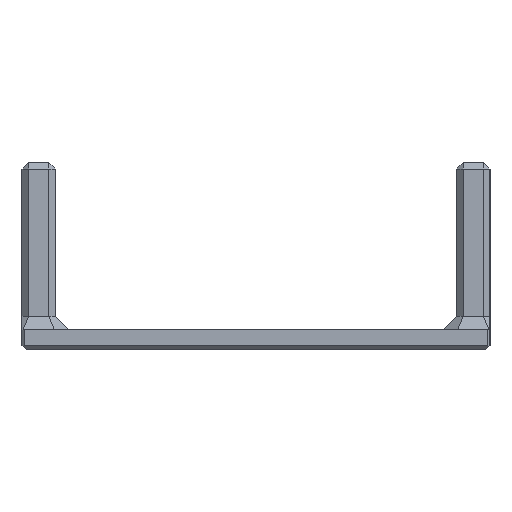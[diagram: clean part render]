
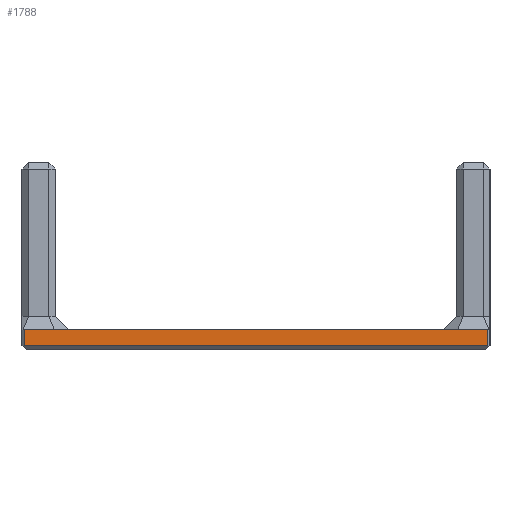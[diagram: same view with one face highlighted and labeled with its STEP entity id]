
A CAD part, left-side view. The second image highlights one B-rep face of the part: STEP entity #1788.
In plain terms, the highlighted planar face has unit normal (-1, 0, 0).
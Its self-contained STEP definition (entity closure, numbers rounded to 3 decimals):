
#84 = CARTESIAN_POINT ( 'NONE',  ( 0., 0., 3. ) ) ;
#116 = LINE ( 'NONE', #19622, #11433 ) ;
#356 = CARTESIAN_POINT ( 'NONE',  ( 0., 69.7, 3. ) ) ;
#440 = DIRECTION ( 'NONE',  ( -1., 0., 0. ) ) ;
#576 = DIRECTION ( 'NONE',  ( 0., 0., 1. ) ) ;
#1788 = ADVANCED_FACE ( 'NONE', ( #14330 ), #9316, .T. ) ;
#2964 = EDGE_CURVE ( 'NONE', #17220, #19459, #116, .T. ) ;
#3018 = EDGE_CURVE ( 'NONE', #19459, #16273, #16583, .T. ) ;
#4184 = CARTESIAN_POINT ( 'NONE',  ( 0., 69.7, 3. ) ) ;
#4638 = CARTESIAN_POINT ( 'NONE',  ( 0., 0.3, 3. ) ) ;
#5178 = ORIENTED_EDGE ( 'NONE', *, *, #3018, .T. ) ;
#6454 = ORIENTED_EDGE ( 'NONE', *, *, #20999, .T. ) ;
#6782 = DIRECTION ( 'NONE',  ( 0., -1., 0. ) ) ;
#7565 = DIRECTION ( 'NONE',  ( 0., 0., 1. ) ) ;
#8107 = CARTESIAN_POINT ( 'NONE',  ( 0., 0., 3. ) ) ;
#8182 = ORIENTED_EDGE ( 'NONE', *, *, #12292, .T. ) ;
#8384 = AXIS2_PLACEMENT_3D ( 'NONE', #84, #440, #7565 ) ;
#8470 = VERTEX_POINT ( 'NONE', #4184 ) ;
#9316 = PLANE ( 'NONE',  #8384 ) ;
#9558 = VECTOR ( 'NONE', #576, 1000. ) ;
#11433 = VECTOR ( 'NONE', #6782, 1000. ) ;
#11972 = DIRECTION ( 'NONE',  ( 0., 1., 0. ) ) ;
#12292 = EDGE_CURVE ( 'NONE', #8470, #17220, #16365, .T. ) ;
#12863 = CARTESIAN_POINT ( 'NONE',  ( 0., 0.3, 3. ) ) ;
#12868 = DIRECTION ( 'NONE',  ( 0., 0., -1. ) ) ;
#14330 = FACE_OUTER_BOUND ( 'NONE', #17274, .T. ) ;
#14880 = CARTESIAN_POINT ( 'NONE',  ( 0., 0.3, 0.6 ) ) ;
#16273 = VERTEX_POINT ( 'NONE', #4638 ) ;
#16365 = LINE ( 'NONE', #356, #19362 ) ;
#16583 = LINE ( 'NONE', #12863, #9558 ) ;
#17220 = VERTEX_POINT ( 'NONE', #21139 ) ;
#17274 = EDGE_LOOP ( 'NONE', ( #18241, #5178, #6454, #8182 ) ) ;
#18241 = ORIENTED_EDGE ( 'NONE', *, *, #2964, .T. ) ;
#19194 = LINE ( 'NONE', #8107, #21250 ) ;
#19362 = VECTOR ( 'NONE', #12868, 1000. ) ;
#19459 = VERTEX_POINT ( 'NONE', #14880 ) ;
#19622 = CARTESIAN_POINT ( 'NONE',  ( 0., 0., 0.6 ) ) ;
#20999 = EDGE_CURVE ( 'NONE', #16273, #8470, #19194, .T. ) ;
#21139 = CARTESIAN_POINT ( 'NONE',  ( 0., 69.7, 0.6 ) ) ;
#21250 = VECTOR ( 'NONE', #11972, 1000. ) ;
